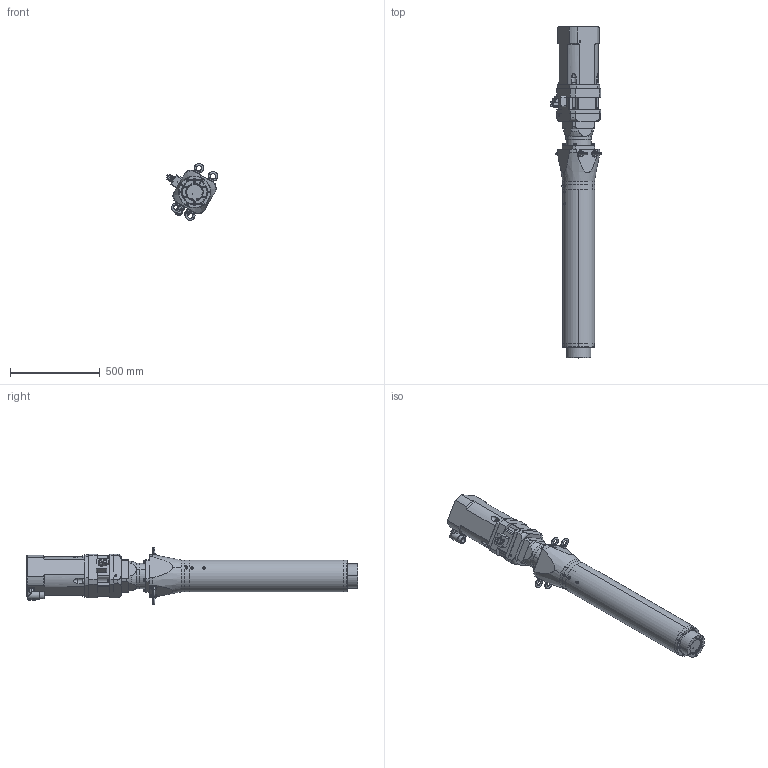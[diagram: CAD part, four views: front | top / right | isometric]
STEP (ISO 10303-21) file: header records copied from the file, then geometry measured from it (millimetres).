
FILE_DESCRIPTION (( 'STEP AP214' ), '1' );
FILE_NAME ('RLWIK100D-055-020SG0.STEP', '2023-04-06T05:51:52', ( '' ), ( '' ), 'SwSTEP 2.0', 'SolidWorks 2021', '' );
FILE_SCHEMA (( 'AUTOMOTIVE_DESIGN' ));
Length unit declared in the file: millimetre
Products named in the file (1): RLWIK100D-055-020SG0
Bounding box: 286.71 x 1848.5 x 317.1 mm (x, y, z)
Volume: 40666364.7 mm3; surface area: 2863332 mm2
Topology: 38 solids, 38 shells, 1511 faces, 3593 edges, 2148 vertices
Faces by surface type: cylinder 574, plane 511, cone 238, torus 112, bspline 74, sphere 2
Entity records: 65828 total; most frequent: CARTESIAN_POINT 14140, DIRECTION 7617, ORIENTED_EDGE 6858, EDGE_CURVE 3429, AXIS2_PLACEMENT_3D 3017, VERTEX_POINT 2148, EDGE_LOOP 1763, LINE 1583
